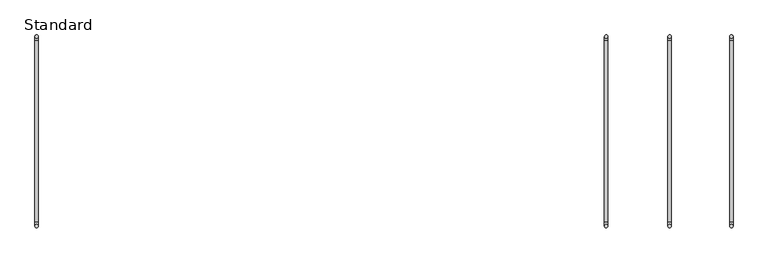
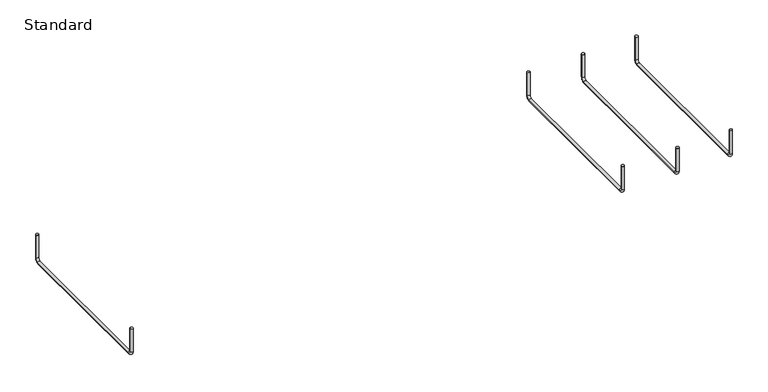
"""IFC4 building model written with IfcOpenShell, lengths in millimetres: cable carrier fitting geometry, CableTray_Atkore-Straight-Length : Standard."""

from ifc_helpers import new_model, si_unit, point, frame, origin, place, context, project, spatial, circle_curve, ellipse_curve, trimmed, source, transform, mapped, element, save
from ifc_brep_helpers import plane_surface, cylinder_surface, revolved_surface, advanced_brep


def standard_2e2cd0d7(model_context):
    return source(origin(), model_context, "Body", "AdvancedBrep", [
        advanced_brep(
        [(870.5996306, -144.88, 28.4757813), (875.6796306, -144.88, 28.4757813), (870.5996306, -144.88, -14.8133594), (875.6796306, -144.88, -14.8133594), (875.6796306, -138.8375781, -20.8557812), (870.5996306, -138.8375781, -20.8557812), (870.5996306, 138.53, -20.8557812), (875.6796306, 138.53, -20.8557812), (875.6796306, 144.88, -14.5057812), (870.5996306, 144.88, -14.5057812), (870.5996306, 144.88, 28.4757813), (875.6796306, 144.88, 28.4757813)],
        [
            (0, 1, circle_curve(frame((873.1396306, -144.88, 28.4757813), z_axis=(0.0, 0.0, 1.0), x_axis=(1.0, 0.0, 0.0)), 2.54)),
            (1, 0, circle_curve(frame((873.1396306, -144.88, 28.4757813), z_axis=(0.0, 0.0, 1.0), x_axis=(1.0, 0.0, 0.0)), 2.54)),
            (0, 2),
            (2, 3, circle_curve(frame((873.1396306, -144.88, -14.8133594), z_axis=(0.0, 0.0, 1.0), x_axis=(1.0, 0.0, 0.0)), 2.54)),
            (3, 1),
            (3, 2, circle_curve(frame((873.1396306, -144.88, -14.8133594), z_axis=(0.0, 0.0, 1.0), x_axis=(1.0, 0.0, 0.0)), 2.54)),
            (4, 3, circle_curve(frame((875.6796306, -138.8375781, -14.8133594), z_axis=(-1.0, 0.0, 0.0), x_axis=(0.0, -1.0, 0.0)), 6.0424219)),
            (2, 5, circle_curve(frame((870.5996306, -138.8375781, -14.8133594), z_axis=(1.0, 0.0, 0.0), x_axis=(0.0, -1.0, 0.0)), 6.0424219)),
            (5, 4, circle_curve(frame((873.1396306, -138.8375781, -20.8557812), z_axis=(0.0, -1.0, 0.0), x_axis=(1.0, 0.0, 0.0)), 2.54)),
            (4, 5, circle_curve(frame((873.1396306, -138.8375781, -20.8557812), z_axis=(0.0, -1.0, 0.0), x_axis=(1.0, 0.0, 0.0)), 2.54)),
            (5, 6),
            (6, 7, circle_curve(frame((873.1396306, 138.53, -20.8557812), z_axis=(0.0, -1.0, 0.0), x_axis=(1.0, 0.0, 0.0)), 2.54)),
            (7, 4),
            (7, 6, circle_curve(frame((873.1396306, 138.53, -20.8557812), z_axis=(0.0, -1.0, 0.0), x_axis=(1.0, 0.0, 0.0)), 2.54)),
            (8, 7, circle_curve(frame((875.6796306, 138.53, -14.5057812), z_axis=(-1.0, 0.0, 0.0), x_axis=(0.0, 0.0, -1.0)), 6.35)),
            (6, 9, circle_curve(frame((870.5996306, 138.53, -14.5057812), z_axis=(1.0, 0.0, 0.0), x_axis=(0.0, 0.0, -1.0)), 6.35)),
            (9, 8, circle_curve(frame((873.1396306, 144.88, -14.5057812), z_axis=(0.0, 0.0, -1.0), x_axis=(1.0, 0.0, 0.0)), 2.54)),
            (8, 9, circle_curve(frame((873.1396306, 144.88, -14.5057812), z_axis=(0.0, 0.0, -1.0), x_axis=(1.0, 0.0, 0.0)), 2.54)),
            (10, 11, circle_curve(frame((873.1396306, 144.88, 28.4757813), z_axis=(0.0, 0.0, 1.0), x_axis=(1.0, 0.0, 0.0)), 2.54)),
            (11, 10, circle_curve(frame((873.1396306, 144.88, 28.4757813), z_axis=(0.0, 0.0, 1.0), x_axis=(1.0, 0.0, 0.0)), 2.54)),
            (9, 10),
            (11, 8),
        ],
        [
            plane_surface(frame((873.1396306, -144.88, 28.4757813), z_axis=(0.0, 0.0, 1.0), x_axis=(1.0, 0.0, 0.0))),
            cylinder_surface(frame((873.1396306, -144.88, 28.4757813), z_axis=(0.0, 0.0, 1.0), x_axis=(1.0, 0.0, 0.0)), 2.54),
            revolved_surface(trimmed(ellipse_curve(frame((873.1396306, -144.88, -14.8133594), z_axis=(0.0, 0.0, 1.0), x_axis=(1.0, 0.0, 0.0)), 2.54, 2.54), [point((870.5996306, -144.88, -14.8133594))], [point((875.6796306, -144.88, -14.8133594))], True, "CARTESIAN"), (873.1396306, -138.8375781, -14.8133594), (1.0, 0.0, 0.0)),
            revolved_surface(trimmed(ellipse_curve(frame((873.1396306, -144.88, -14.8133594), z_axis=(0.0, 0.0, 1.0), x_axis=(1.0, 0.0, 0.0)), 2.54, 2.54), [point((875.6796306, -144.88, -14.8133594))], [point((870.5996306, -144.88, -14.8133594))], True, "CARTESIAN"), (873.1396306, -138.8375781, -14.8133594), (1.0, 0.0, 0.0)),
            cylinder_surface(frame((873.1396306, -138.8375781, -20.8557812), z_axis=(0.0, -1.0, 0.0), x_axis=(1.0, 0.0, 0.0)), 2.54),
            revolved_surface(trimmed(ellipse_curve(frame((873.1396306, 138.53, -20.8557812), z_axis=(0.0, -1.0, 0.0), x_axis=(1.0, 0.0, 0.0)), 2.54, 2.54), [point((870.5996306, 138.53, -20.8557812))], [point((875.6796306, 138.53, -20.8557812))], True, "CARTESIAN"), (873.1396306, 138.53, -14.5057812), (1.0, 0.0, 0.0)),
            revolved_surface(trimmed(ellipse_curve(frame((873.1396306, 138.53, -20.8557812), z_axis=(0.0, -1.0, 0.0), x_axis=(1.0, 0.0, 0.0)), 2.54, 2.54), [point((875.6796306, 138.53, -20.8557812))], [point((870.5996306, 138.53, -20.8557812))], True, "CARTESIAN"), (873.1396306, 138.53, -14.5057812), (1.0, 0.0, 0.0)),
            plane_surface(frame((873.1396306, 144.88, 28.4757813), z_axis=(0.0, 0.0, 1.0), x_axis=(1.0, 0.0, 0.0))),
            cylinder_surface(frame((873.1396306, 144.88, -14.5057812), z_axis=(0.0, 0.0, -1.0), x_axis=(1.0, 0.0, 0.0)), 2.54),
        ],
        [
            (0, [[1, 2]]),
            (1, [[-1, 3, 4, 5]]),
            (1, [[-2, -5, 6, -3]]),
            (2, [[7, -4, 8, 9]]),
            (3, [[-8, -6, -7, 10]]),
            (4, [[-9, 11, 12, 13]]),
            (4, [[-10, -13, 14, -11]]),
            (5, [[15, -12, 16, 17]]),
            (6, [[-16, -14, -15, 18]]),
            (7, [[19, 20]]),
            (8, [[-17, 21, -20, 22]]),
            (8, [[-18, -22, -19, -21]]),
        ],
    ),
        advanced_brep(
        [(967.6151451, -144.88, 28.4757813), (972.6951451, -144.88, 28.4757813), (967.6151451, -144.88, -14.8133594), (972.6951451, -144.88, -14.8133594), (972.6951451, -138.8375781, -20.8557812), (967.6151451, -138.8375781, -20.8557812), (967.6151451, 138.53, -20.8557812), (972.6951451, 138.53, -20.8557812), (972.6951451, 144.88, -14.5057812), (967.6151451, 144.88, -14.5057812), (967.6151451, 144.88, 28.4757813), (972.6951451, 144.88, 28.4757813)],
        [
            (0, 1, circle_curve(frame((970.1551451, -144.88, 28.4757813), z_axis=(0.0, 0.0, 1.0), x_axis=(1.0, 0.0, 0.0)), 2.54)),
            (1, 0, circle_curve(frame((970.1551451, -144.88, 28.4757813), z_axis=(0.0, 0.0, 1.0), x_axis=(1.0, 0.0, 0.0)), 2.54)),
            (0, 2),
            (2, 3, circle_curve(frame((970.1551451, -144.88, -14.8133594), z_axis=(0.0, 0.0, 1.0), x_axis=(1.0, 0.0, 0.0)), 2.54)),
            (3, 1),
            (3, 2, circle_curve(frame((970.1551451, -144.88, -14.8133594), z_axis=(0.0, 0.0, 1.0), x_axis=(1.0, 0.0, 0.0)), 2.54)),
            (4, 3, circle_curve(frame((972.6951451, -138.8375781, -14.8133594), z_axis=(-1.0, 0.0, 0.0), x_axis=(0.0, -1.0, 0.0)), 6.0424219)),
            (2, 5, circle_curve(frame((967.6151451, -138.8375781, -14.8133594), z_axis=(1.0, 0.0, 0.0), x_axis=(0.0, -1.0, 0.0)), 6.0424219)),
            (5, 4, circle_curve(frame((970.1551451, -138.8375781, -20.8557812), z_axis=(0.0, -1.0, 0.0), x_axis=(1.0, 0.0, 0.0)), 2.54)),
            (4, 5, circle_curve(frame((970.1551451, -138.8375781, -20.8557812), z_axis=(0.0, -1.0, 0.0), x_axis=(1.0, 0.0, 0.0)), 2.54)),
            (5, 6),
            (6, 7, circle_curve(frame((970.1551451, 138.53, -20.8557812), z_axis=(0.0, -1.0, 0.0), x_axis=(1.0, 0.0, 0.0)), 2.54)),
            (7, 4),
            (7, 6, circle_curve(frame((970.1551451, 138.53, -20.8557812), z_axis=(0.0, -1.0, 0.0), x_axis=(1.0, 0.0, 0.0)), 2.54)),
            (8, 7, circle_curve(frame((972.6951451, 138.53, -14.5057812), z_axis=(-1.0, 0.0, 0.0), x_axis=(0.0, 0.0, -1.0)), 6.35)),
            (6, 9, circle_curve(frame((967.6151451, 138.53, -14.5057812), z_axis=(1.0, 0.0, 0.0), x_axis=(0.0, 0.0, -1.0)), 6.35)),
            (9, 8, circle_curve(frame((970.1551451, 144.88, -14.5057812), z_axis=(0.0, 0.0, -1.0), x_axis=(1.0, 0.0, 0.0)), 2.54)),
            (8, 9, circle_curve(frame((970.1551451, 144.88, -14.5057812), z_axis=(0.0, 0.0, -1.0), x_axis=(1.0, 0.0, 0.0)), 2.54)),
            (10, 11, circle_curve(frame((970.1551451, 144.88, 28.4757813), z_axis=(0.0, 0.0, 1.0), x_axis=(1.0, 0.0, 0.0)), 2.54)),
            (11, 10, circle_curve(frame((970.1551451, 144.88, 28.4757813), z_axis=(0.0, 0.0, 1.0), x_axis=(1.0, 0.0, 0.0)), 2.54)),
            (9, 10),
            (11, 8),
        ],
        [
            plane_surface(frame((970.1551451, -144.88, 28.4757813), z_axis=(0.0, 0.0, 1.0), x_axis=(1.0, 0.0, 0.0))),
            cylinder_surface(frame((970.1551451, -144.88, 28.4757813), z_axis=(0.0, 0.0, 1.0), x_axis=(1.0, 0.0, 0.0)), 2.54),
            revolved_surface(trimmed(ellipse_curve(frame((970.1551451, -144.88, -14.8133594), z_axis=(0.0, 0.0, 1.0), x_axis=(1.0, 0.0, 0.0)), 2.54, 2.54), [point((967.6151451, -144.88, -14.8133594))], [point((972.6951451, -144.88, -14.8133594))], True, "CARTESIAN"), (970.1551451, -138.8375781, -14.8133594), (1.0, 0.0, 0.0)),
            revolved_surface(trimmed(ellipse_curve(frame((970.1551451, -144.88, -14.8133594), z_axis=(0.0, 0.0, 1.0), x_axis=(1.0, 0.0, 0.0)), 2.54, 2.54), [point((972.6951451, -144.88, -14.8133594))], [point((967.6151451, -144.88, -14.8133594))], True, "CARTESIAN"), (970.1551451, -138.8375781, -14.8133594), (1.0, 0.0, 0.0)),
            cylinder_surface(frame((970.1551451, -138.8375781, -20.8557812), z_axis=(0.0, -1.0, 0.0), x_axis=(1.0, 0.0, 0.0)), 2.54),
            revolved_surface(trimmed(ellipse_curve(frame((970.1551451, 138.53, -20.8557812), z_axis=(0.0, -1.0, 0.0), x_axis=(1.0, 0.0, 0.0)), 2.54, 2.54), [point((967.6151451, 138.53, -20.8557812))], [point((972.6951451, 138.53, -20.8557812))], True, "CARTESIAN"), (970.1551451, 138.53, -14.5057812), (1.0, 0.0, 0.0)),
            revolved_surface(trimmed(ellipse_curve(frame((970.1551451, 138.53, -20.8557812), z_axis=(0.0, -1.0, 0.0), x_axis=(1.0, 0.0, 0.0)), 2.54, 2.54), [point((972.6951451, 138.53, -20.8557812))], [point((967.6151451, 138.53, -20.8557812))], True, "CARTESIAN"), (970.1551451, 138.53, -14.5057812), (1.0, 0.0, 0.0)),
            plane_surface(frame((970.1551451, 144.88, 28.4757813), z_axis=(0.0, 0.0, 1.0), x_axis=(1.0, 0.0, 0.0))),
            cylinder_surface(frame((970.1551451, 144.88, -14.5057812), z_axis=(0.0, 0.0, -1.0), x_axis=(1.0, 0.0, 0.0)), 2.54),
        ],
        [
            (0, [[1, 2]]),
            (1, [[-1, 3, 4, 5]]),
            (1, [[-2, -5, 6, -3]]),
            (2, [[7, -4, 8, 9]]),
            (3, [[-8, -6, -7, 10]]),
            (4, [[-9, 11, 12, 13]]),
            (4, [[-10, -13, 14, -11]]),
            (5, [[15, -12, 16, 17]]),
            (6, [[-16, -14, -15, 18]]),
            (7, [[19, 20]]),
            (8, [[-17, 21, -20, 22]]),
            (8, [[-18, -22, -19, -21]]),
        ],
    ),
        advanced_brep(
        [(0.0, -144.88, 28.4757813), (5.08, -144.88, 28.4757813), (0.0, -144.88, -14.8133594), (5.08, -144.88, -14.8133594), (5.08, -138.8375781, -20.8557812), (0.0, -138.8375781, -20.8557812), (0.0, 138.53, -20.8557812), (5.08, 138.53, -20.8557812), (5.08, 144.88, -14.5057812), (0.0, 144.88, -14.5057812), (0.0, 144.88, 28.4757813), (5.08, 144.88, 28.4757813)],
        [
            (0, 1, circle_curve(frame((2.54, -144.88, 28.4757813), z_axis=(0.0, 0.0, 1.0), x_axis=(1.0, 0.0, 0.0)), 2.54)),
            (1, 0, circle_curve(frame((2.54, -144.88, 28.4757813), z_axis=(0.0, 0.0, 1.0), x_axis=(1.0, 0.0, 0.0)), 2.54)),
            (0, 2),
            (2, 3, circle_curve(frame((2.54, -144.88, -14.8133594), z_axis=(0.0, 0.0, 1.0), x_axis=(1.0, 0.0, 0.0)), 2.54)),
            (3, 1),
            (3, 2, circle_curve(frame((2.54, -144.88, -14.8133594), z_axis=(0.0, 0.0, 1.0), x_axis=(1.0, 0.0, 0.0)), 2.54)),
            (4, 3, circle_curve(frame((5.08, -138.8375781, -14.8133594), z_axis=(-1.0, 0.0, 0.0), x_axis=(0.0, -1.0, 0.0)), 6.0424219)),
            (2, 5, circle_curve(frame((0.0, -138.8375781, -14.8133594), z_axis=(1.0, 0.0, 0.0), x_axis=(0.0, -1.0, 0.0)), 6.0424219)),
            (5, 4, circle_curve(frame((2.54, -138.8375781, -20.8557812), z_axis=(0.0, -1.0, 0.0), x_axis=(1.0, 0.0, 0.0)), 2.54)),
            (4, 5, circle_curve(frame((2.54, -138.8375781, -20.8557812), z_axis=(0.0, -1.0, 0.0), x_axis=(1.0, 0.0, 0.0)), 2.54)),
            (5, 6),
            (6, 7, circle_curve(frame((2.54, 138.53, -20.8557812), z_axis=(0.0, -1.0, 0.0), x_axis=(1.0, 0.0, 0.0)), 2.54)),
            (7, 4),
            (7, 6, circle_curve(frame((2.54, 138.53, -20.8557812), z_axis=(0.0, -1.0, 0.0), x_axis=(1.0, 0.0, 0.0)), 2.54)),
            (8, 7, circle_curve(frame((5.08, 138.53, -14.5057812), z_axis=(-1.0, 0.0, 0.0), x_axis=(0.0, 0.0, -1.0)), 6.35)),
            (6, 9, circle_curve(frame((0.0, 138.53, -14.5057812), z_axis=(1.0, 0.0, 0.0), x_axis=(0.0, 0.0, -1.0)), 6.35)),
            (9, 8, circle_curve(frame((2.54, 144.88, -14.5057812), z_axis=(0.0, 0.0, -1.0), x_axis=(1.0, 0.0, 0.0)), 2.54)),
            (8, 9, circle_curve(frame((2.54, 144.88, -14.5057812), z_axis=(0.0, 0.0, -1.0), x_axis=(1.0, 0.0, 0.0)), 2.54)),
            (10, 11, circle_curve(frame((2.54, 144.88, 28.4757813), z_axis=(0.0, 0.0, 1.0), x_axis=(1.0, 0.0, 0.0)), 2.54)),
            (11, 10, circle_curve(frame((2.54, 144.88, 28.4757813), z_axis=(0.0, 0.0, 1.0), x_axis=(1.0, 0.0, 0.0)), 2.54)),
            (9, 10),
            (11, 8),
        ],
        [
            plane_surface(frame((2.54, -144.88, 28.4757813), z_axis=(0.0, 0.0, 1.0), x_axis=(1.0, 0.0, 0.0))),
            cylinder_surface(frame((2.54, -144.88, 28.4757813), z_axis=(0.0, 0.0, 1.0), x_axis=(1.0, 0.0, 0.0)), 2.54),
            revolved_surface(trimmed(ellipse_curve(frame((2.54, -144.88, -14.8133594), z_axis=(0.0, 0.0, 1.0), x_axis=(1.0, 0.0, 0.0)), 2.54, 2.54), [point((0.0, -144.88, -14.8133594))], [point((5.08, -144.88, -14.8133594))], True, "CARTESIAN"), (2.54, -138.8375781, -14.8133594), (1.0, 0.0, 0.0)),
            revolved_surface(trimmed(ellipse_curve(frame((2.54, -144.88, -14.8133594), z_axis=(0.0, 0.0, 1.0), x_axis=(1.0, 0.0, 0.0)), 2.54, 2.54), [point((5.08, -144.88, -14.8133594))], [point((0.0, -144.88, -14.8133594))], True, "CARTESIAN"), (2.54, -138.8375781, -14.8133594), (1.0, 0.0, 0.0)),
            cylinder_surface(frame((2.54, -138.8375781, -20.8557812), z_axis=(0.0, -1.0, 0.0), x_axis=(1.0, 0.0, 0.0)), 2.54),
            revolved_surface(trimmed(ellipse_curve(frame((2.54, 138.53, -20.8557812), z_axis=(0.0, -1.0, 0.0), x_axis=(1.0, 0.0, 0.0)), 2.54, 2.54), [point((0.0, 138.53, -20.8557812))], [point((5.08, 138.53, -20.8557812))], True, "CARTESIAN"), (2.54, 138.53, -14.5057812), (1.0, 0.0, 0.0)),
            revolved_surface(trimmed(ellipse_curve(frame((2.54, 138.53, -20.8557812), z_axis=(0.0, -1.0, 0.0), x_axis=(1.0, 0.0, 0.0)), 2.54, 2.54), [point((5.08, 138.53, -20.8557812))], [point((0.0, 138.53, -20.8557812))], True, "CARTESIAN"), (2.54, 138.53, -14.5057812), (1.0, 0.0, 0.0)),
            plane_surface(frame((2.54, 144.88, 28.4757813), z_axis=(0.0, 0.0, 1.0), x_axis=(1.0, 0.0, 0.0))),
            cylinder_surface(frame((2.54, 144.88, -14.5057812), z_axis=(0.0, 0.0, -1.0), x_axis=(1.0, 0.0, 0.0)), 2.54),
        ],
        [
            (0, [[1, 2]]),
            (1, [[-1, 3, 4, 5]]),
            (1, [[-2, -5, 6, -3]]),
            (2, [[7, -4, 8, 9]]),
            (3, [[-8, -6, -7, 10]]),
            (4, [[-9, 11, 12, 13]]),
            (4, [[-10, -13, 14, -11]]),
            (5, [[15, -12, 16, 17]]),
            (6, [[-16, -14, -15, 18]]),
            (7, [[19, 20]]),
            (8, [[-17, 21, -20, 22]]),
            (8, [[-18, -22, -19, -21]]),
        ],
    ),
        advanced_brep(
        [(1062.0906596, -144.88, 28.4757813), (1067.1706596, -144.88, 28.4757813), (1062.0906596, -144.88, -14.8133594), (1067.1706596, -144.88, -14.8133594), (1067.1706596, -138.8375781, -20.8557812), (1062.0906596, -138.8375781, -20.8557812), (1062.0906596, 138.53, -20.8557812), (1067.1706596, 138.53, -20.8557812), (1067.1706596, 144.88, -14.5057812), (1062.0906596, 144.88, -14.5057812), (1062.0906596, 144.88, 28.4757813), (1067.1706596, 144.88, 28.4757813)],
        [
            (0, 1, circle_curve(frame((1064.6306596, -144.88, 28.4757813), z_axis=(0.0, 0.0, 1.0), x_axis=(1.0, 0.0, 0.0)), 2.54)),
            (1, 0, circle_curve(frame((1064.6306596, -144.88, 28.4757813), z_axis=(0.0, 0.0, 1.0), x_axis=(1.0, 0.0, 0.0)), 2.54)),
            (0, 2),
            (2, 3, circle_curve(frame((1064.6306596, -144.88, -14.8133594), z_axis=(0.0, 0.0, 1.0), x_axis=(1.0, 0.0, 0.0)), 2.54)),
            (3, 1),
            (3, 2, circle_curve(frame((1064.6306596, -144.88, -14.8133594), z_axis=(0.0, 0.0, 1.0), x_axis=(1.0, 0.0, 0.0)), 2.54)),
            (4, 3, circle_curve(frame((1067.1706596, -138.8375781, -14.8133594), z_axis=(-1.0, 0.0, 0.0), x_axis=(0.0, -1.0, 0.0)), 6.0424219)),
            (2, 5, circle_curve(frame((1062.0906596, -138.8375781, -14.8133594), z_axis=(1.0, 0.0, 0.0), x_axis=(0.0, -1.0, 0.0)), 6.0424219)),
            (5, 4, circle_curve(frame((1064.6306596, -138.8375781, -20.8557812), z_axis=(0.0, -1.0, 0.0), x_axis=(1.0, 0.0, 0.0)), 2.54)),
            (4, 5, circle_curve(frame((1064.6306596, -138.8375781, -20.8557812), z_axis=(0.0, -1.0, 0.0), x_axis=(1.0, 0.0, 0.0)), 2.54)),
            (5, 6),
            (6, 7, circle_curve(frame((1064.6306596, 138.53, -20.8557812), z_axis=(0.0, -1.0, 0.0), x_axis=(1.0, 0.0, 0.0)), 2.54)),
            (7, 4),
            (7, 6, circle_curve(frame((1064.6306596, 138.53, -20.8557812), z_axis=(0.0, -1.0, 0.0), x_axis=(1.0, 0.0, 0.0)), 2.54)),
            (8, 7, circle_curve(frame((1067.1706596, 138.53, -14.5057812), z_axis=(-1.0, 0.0, 0.0), x_axis=(0.0, 0.0, -1.0)), 6.35)),
            (6, 9, circle_curve(frame((1062.0906596, 138.53, -14.5057812), z_axis=(1.0, 0.0, 0.0), x_axis=(0.0, 0.0, -1.0)), 6.35)),
            (9, 8, circle_curve(frame((1064.6306596, 144.88, -14.5057812), z_axis=(0.0, 0.0, -1.0), x_axis=(1.0, 0.0, 0.0)), 2.54)),
            (8, 9, circle_curve(frame((1064.6306596, 144.88, -14.5057812), z_axis=(0.0, 0.0, -1.0), x_axis=(1.0, 0.0, 0.0)), 2.54)),
            (10, 11, circle_curve(frame((1064.6306596, 144.88, 28.4757813), z_axis=(0.0, 0.0, 1.0), x_axis=(1.0, 0.0, 0.0)), 2.54)),
            (11, 10, circle_curve(frame((1064.6306596, 144.88, 28.4757813), z_axis=(0.0, 0.0, 1.0), x_axis=(1.0, 0.0, 0.0)), 2.54)),
            (9, 10),
            (11, 8),
        ],
        [
            plane_surface(frame((1064.6306596, -144.88, 28.4757813), z_axis=(0.0, 0.0, 1.0), x_axis=(1.0, 0.0, 0.0))),
            cylinder_surface(frame((1064.6306596, -144.88, 28.4757813), z_axis=(0.0, 0.0, 1.0), x_axis=(1.0, 0.0, 0.0)), 2.54),
            revolved_surface(trimmed(ellipse_curve(frame((1064.6306596, -144.88, -14.8133594), z_axis=(0.0, 0.0, 1.0), x_axis=(1.0, 0.0, 0.0)), 2.54, 2.54), [point((1062.0906596, -144.88, -14.8133594))], [point((1067.1706596, -144.88, -14.8133594))], True, "CARTESIAN"), (1064.6306596, -138.8375781, -14.8133594), (1.0, 0.0, 0.0)),
            revolved_surface(trimmed(ellipse_curve(frame((1064.6306596, -144.88, -14.8133594), z_axis=(0.0, 0.0, 1.0), x_axis=(1.0, 0.0, 0.0)), 2.54, 2.54), [point((1067.1706596, -144.88, -14.8133594))], [point((1062.0906596, -144.88, -14.8133594))], True, "CARTESIAN"), (1064.6306596, -138.8375781, -14.8133594), (1.0, 0.0, 0.0)),
            cylinder_surface(frame((1064.6306596, -138.8375781, -20.8557812), z_axis=(0.0, -1.0, 0.0), x_axis=(1.0, 0.0, 0.0)), 2.54),
            revolved_surface(trimmed(ellipse_curve(frame((1064.6306596, 138.53, -20.8557812), z_axis=(0.0, -1.0, 0.0), x_axis=(1.0, 0.0, 0.0)), 2.54, 2.54), [point((1062.0906596, 138.53, -20.8557812))], [point((1067.1706596, 138.53, -20.8557812))], True, "CARTESIAN"), (1064.6306596, 138.53, -14.5057812), (1.0, 0.0, 0.0)),
            revolved_surface(trimmed(ellipse_curve(frame((1064.6306596, 138.53, -20.8557812), z_axis=(0.0, -1.0, 0.0), x_axis=(1.0, 0.0, 0.0)), 2.54, 2.54), [point((1067.1706596, 138.53, -20.8557812))], [point((1062.0906596, 138.53, -20.8557812))], True, "CARTESIAN"), (1064.6306596, 138.53, -14.5057812), (1.0, 0.0, 0.0)),
            plane_surface(frame((1064.6306596, 144.88, 28.4757813), z_axis=(0.0, 0.0, 1.0), x_axis=(1.0, 0.0, 0.0))),
            cylinder_surface(frame((1064.6306596, 144.88, -14.5057812), z_axis=(0.0, 0.0, -1.0), x_axis=(1.0, 0.0, 0.0)), 2.54),
        ],
        [
            (0, [[1, 2]]),
            (1, [[-1, 3, 4, 5]]),
            (1, [[-2, -5, 6, -3]]),
            (2, [[7, -4, 8, 9]]),
            (3, [[-8, -6, -7, 10]]),
            (4, [[-9, 11, 12, 13]]),
            (4, [[-10, -13, 14, -11]]),
            (5, [[15, -12, 16, 17]]),
            (6, [[-16, -14, -15, 18]]),
            (7, [[19, 20]]),
            (8, [[-17, 21, -20, 22]]),
            (8, [[-18, -22, -19, -21]]),
        ],
    ),
    ])


if __name__ == "__main__":
    model = new_model("IFC4")
    model_context = context("Model", 3, world=origin())
    ifc_project = project(units=[si_unit("LENGTHUNIT", "METRE", prefix="MILLI")], contexts=[model_context])
    site = spatial("IfcSite", under=ifc_project)
    building = spatial("IfcBuilding", under=site)
    placement = place(None, origin())
    standard_shape = standard_2e2cd0d7(model_context)
    element("IfcCableCarrierFitting", 1, ObjectType="CableTray_Atkore-Straight-Length : Standard", at=placement, inside=building, context=model_context, shape_type="MappedRepresentation", body=[
        mapped(standard_shape, transform((0.0, 0.0, 0.0), x_axis=(1.0, 0.0, 0.0), y_axis=(0.0, 1.0, 0.0), z_axis=(0.0, 0.0, 1.0))),
    ])
    save(model, "model.ifc")
